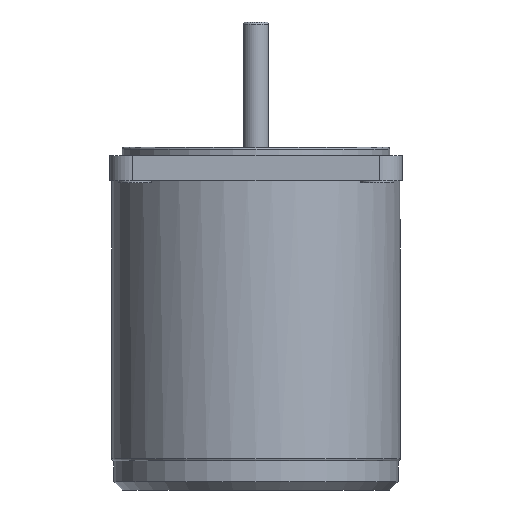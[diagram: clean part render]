
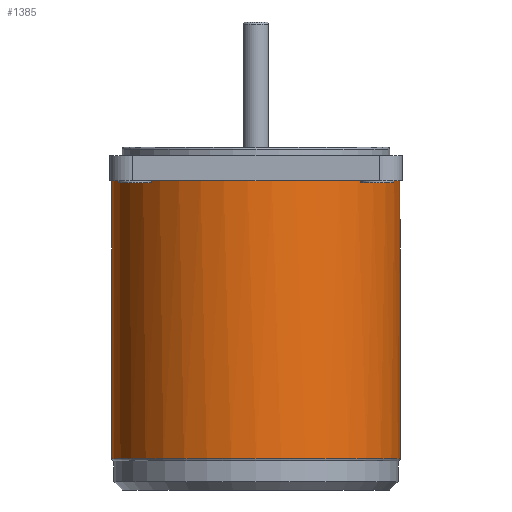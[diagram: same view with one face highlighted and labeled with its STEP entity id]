
A CAD part, front view. The second image highlights one B-rep face of the part: STEP entity #1385.
In plain terms, the highlighted cylindrical face has radius 34.5 mm (diameter 69 mm), a full revolution.
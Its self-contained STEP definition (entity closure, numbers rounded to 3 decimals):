
#1307=CARTESIAN_POINT('',(-34.5,0.,7.5));
#1308=VERTEX_POINT('',#1307);
#1309=CARTESIAN_POINT('',(0.0,0.0,7.5));
#1310=DIRECTION('',(0.0,0.0,-1.0));
#1311=DIRECTION('',(1.0,0.0,0.0));
#1312=AXIS2_PLACEMENT_3D('',#1309,#1310,#1311);
#1313=CIRCLE('',#1312,34.5);
#1314=EDGE_CURVE('',#1308,#1308,#1313,.T.);
#1319=CARTESIAN_POINT('',(0.0,0.0,0.0));
#1320=DIRECTION('',(0.0,0.0,1.0));
#1321=DIRECTION('',(-1.0,0.0,0.0));
#1322=AXIS2_PLACEMENT_3D('',#1319,#1320,#1321);
#1323=CYLINDRICAL_SURFACE('',#1322,34.5);
#1324=CARTESIAN_POINT('',(-21.686,26.832,32.5));
#1325=VERTEX_POINT('',#1324);
#1326=CARTESIAN_POINT('',(-21.686,26.832,74.0));
#1327=VERTEX_POINT('',#1326);
#1328=CARTESIAN_POINT('',(-21.686,26.832,32.5));
#1329=DIRECTION('',(0.0,0.0,1.0));
#1330=VECTOR('',#1329,41.5);
#1331=LINE('',#1328,#1330);
#1332=EDGE_CURVE('',#1325,#1327,#1331,.T.);
#1333=ORIENTED_EDGE('',*,*,#1332,.F.);
#1334=CARTESIAN_POINT('',(-20.7,27.6,31.5));
#1335=VERTEX_POINT('',#1334);
#1336=CARTESIAN_POINT('',(-20.7,27.6,31.5));
#1337=CARTESIAN_POINT('',(-20.967,27.4,31.5));
#1338=CARTESIAN_POINT('',(-21.338,27.111,31.65));
#1339=CARTESIAN_POINT('',(-21.636,26.873,32.118));
#1340=CARTESIAN_POINT('',(-21.686,26.832,32.373));
#1341=CARTESIAN_POINT('',(-21.686,26.832,32.5));
#1342=B_SPLINE_CURVE_WITH_KNOTS('',3,(#1336,#1337,#1338,#1339,#1340,#1341),.UNSPECIFIED.,.F.,.U.,(4,1,1,4),(-0.178,-0.076,-0.038,0.),.UNSPECIFIED.);
#1343=EDGE_CURVE('',#1335,#1325,#1342,.T.);
#1344=ORIENTED_EDGE('',*,*,#1343,.F.);
#1345=CARTESIAN_POINT('',(20.7,27.6,31.5));
#1346=VERTEX_POINT('',#1345);
#1347=CARTESIAN_POINT('',(0.0,0.0,31.5));
#1348=DIRECTION('',(0.0,0.0,1.0));
#1349=DIRECTION('',(0.0,1.0,0.0));
#1350=AXIS2_PLACEMENT_3D('',#1347,#1348,#1349);
#1351=CIRCLE('',#1350,34.5);
#1352=EDGE_CURVE('',#1346,#1335,#1351,.T.);
#1353=ORIENTED_EDGE('',*,*,#1352,.F.);
#1354=CARTESIAN_POINT('',(21.686,26.832,32.5));
#1355=VERTEX_POINT('',#1354);
#1356=CARTESIAN_POINT('',(21.686,26.832,32.5));
#1357=CARTESIAN_POINT('',(21.686,26.832,32.331));
#1358=CARTESIAN_POINT('',(21.594,26.906,31.996));
#1359=CARTESIAN_POINT('',(21.234,27.193,31.602));
#1360=CARTESIAN_POINT('',(20.9,27.45,31.5));
#1361=CARTESIAN_POINT('',(20.7,27.6,31.5));
#1362=B_SPLINE_CURVE_WITH_KNOTS('',3,(#1356,#1357,#1358,#1359,#1360,#1361),.UNSPECIFIED.,.F.,.U.,(4,1,1,4),(-0.178,-0.127,-0.076,0.),.UNSPECIFIED.);
#1363=EDGE_CURVE('',#1355,#1346,#1362,.T.);
#1364=ORIENTED_EDGE('',*,*,#1363,.F.);
#1365=CARTESIAN_POINT('',(21.686,26.832,74.0));
#1366=VERTEX_POINT('',#1365);
#1367=CARTESIAN_POINT('',(21.686,26.832,74.0));
#1368=DIRECTION('',(0.0,0.0,-1.0));
#1369=VECTOR('',#1368,41.5);
#1370=LINE('',#1367,#1369);
#1371=EDGE_CURVE('',#1366,#1355,#1370,.T.);
#1372=ORIENTED_EDGE('',*,*,#1371,.F.);
#1373=CARTESIAN_POINT('',(0.0,0.0,74.0));
#1374=DIRECTION('',(0.0,0.0,-1.0));
#1375=DIRECTION('',(-1.0,0.0,0.0));
#1376=AXIS2_PLACEMENT_3D('',#1373,#1374,#1375);
#1377=CIRCLE('',#1376,34.5);
#1378=EDGE_CURVE('',#1366,#1327,#1377,.T.);
#1379=ORIENTED_EDGE('',*,*,#1378,.T.);
#1380=EDGE_LOOP('',(#1333,#1344,#1353,#1364,#1372,#1379));
#1381=FACE_OUTER_BOUND('',#1380,.T.);
#1382=ORIENTED_EDGE('',*,*,#1314,.F.);
#1383=EDGE_LOOP('',(#1382));
#1384=FACE_BOUND('',#1383,.T.);
#1385=ADVANCED_FACE('',(#1381,#1384),#1323,.T.);
